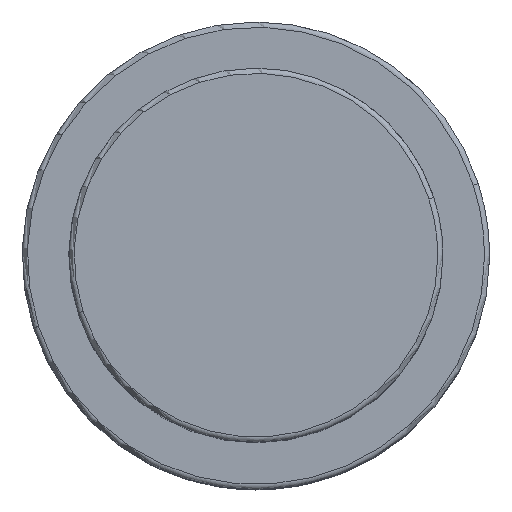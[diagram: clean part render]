
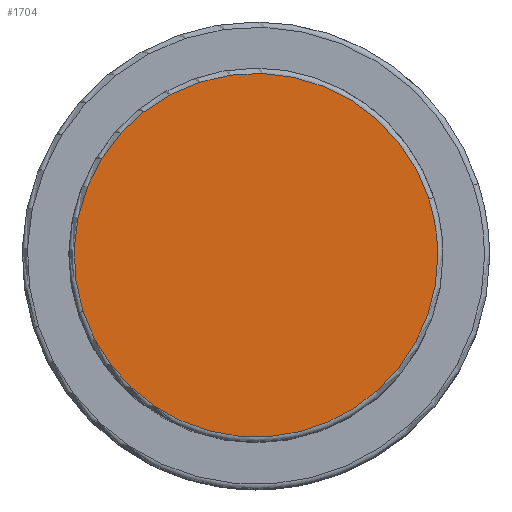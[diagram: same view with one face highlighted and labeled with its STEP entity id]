
A CAD part, top view. The second image highlights one B-rep face of the part: STEP entity #1704.
In plain terms, the highlighted planar face has unit normal (0, 0, 1).
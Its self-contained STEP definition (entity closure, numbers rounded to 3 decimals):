
#1670=CARTESIAN_POINT('',(17.5,0.0,58.0));
#1671=VERTEX_POINT('',#1670);
#1672=CARTESIAN_POINT('',(16.643,5.408,58.0));
#1673=VERTEX_POINT('',#1672);
#1674=CARTESIAN_POINT('',(0.0,0.0,58.0));
#1675=DIRECTION('',(0.0,0.0,1.0));
#1676=DIRECTION('',(1.0,0.0,0.0));
#1677=AXIS2_PLACEMENT_3D('',#1674,#1675,#1676);
#1678=CIRCLE('',#1677,17.5);
#1679=EDGE_CURVE('no 1878',#1671,#1673,#1678,.T.);
#1680=ORIENTED_EDGE('',*,*,#1679,.T.);
#1681=CARTESIAN_POINT('',(-16.643,-5.408,58.0));
#1682=VERTEX_POINT('',#1681);
#1683=CARTESIAN_POINT('',(0.0,0.0,58.0));
#1684=DIRECTION('',(0.0,0.0,1.0));
#1685=DIRECTION('',(1.0,0.0,0.0));
#1686=AXIS2_PLACEMENT_3D('',#1683,#1684,#1685);
#1687=CIRCLE('',#1686,17.5);
#1688=EDGE_CURVE('no 1884',#1673,#1682,#1687,.T.);
#1689=ORIENTED_EDGE('',*,*,#1688,.T.);
#1690=CARTESIAN_POINT('',(0.0,0.0,58.0));
#1691=DIRECTION('',(0.0,0.0,1.0));
#1692=DIRECTION('',(1.0,0.0,0.0));
#1693=AXIS2_PLACEMENT_3D('',#1690,#1691,#1692);
#1694=CIRCLE('',#1693,17.5);
#1695=EDGE_CURVE('no 1888',#1682,#1671,#1694,.T.);
#1696=ORIENTED_EDGE('',*,*,#1695,.T.);
#1697=EDGE_LOOP('',(#1680,#1689,#1696));
#1698=FACE_OUTER_BOUND('',#1697,.T.);
#1699=CARTESIAN_POINT('',(0.0,0.0,58.0));
#1700=DIRECTION('',(0.0,0.0,1.0));
#1701=DIRECTION('',(1.0,0.0,0.0));
#1702=AXIS2_PLACEMENT_3D('',#1699,#1700,#1701);
#1703=PLANE('',#1702);
#1704=ADVANCED_FACE('no 1869',(#1698),#1703,.T.);
